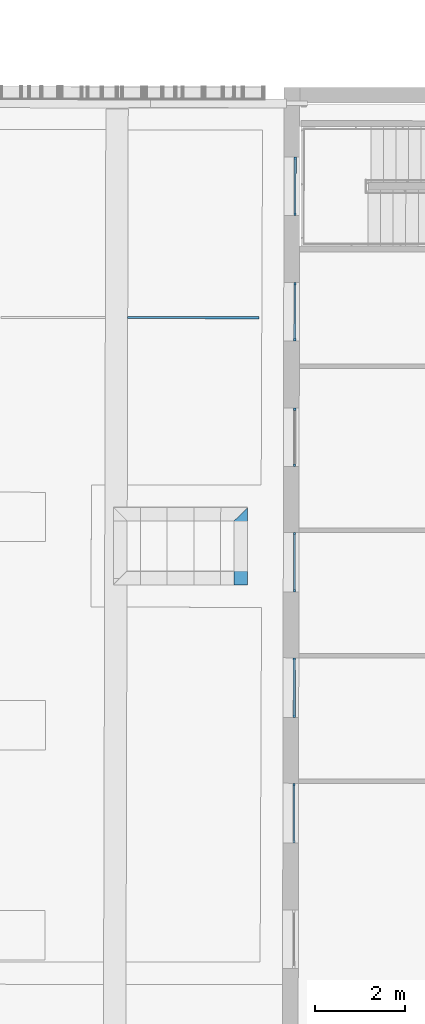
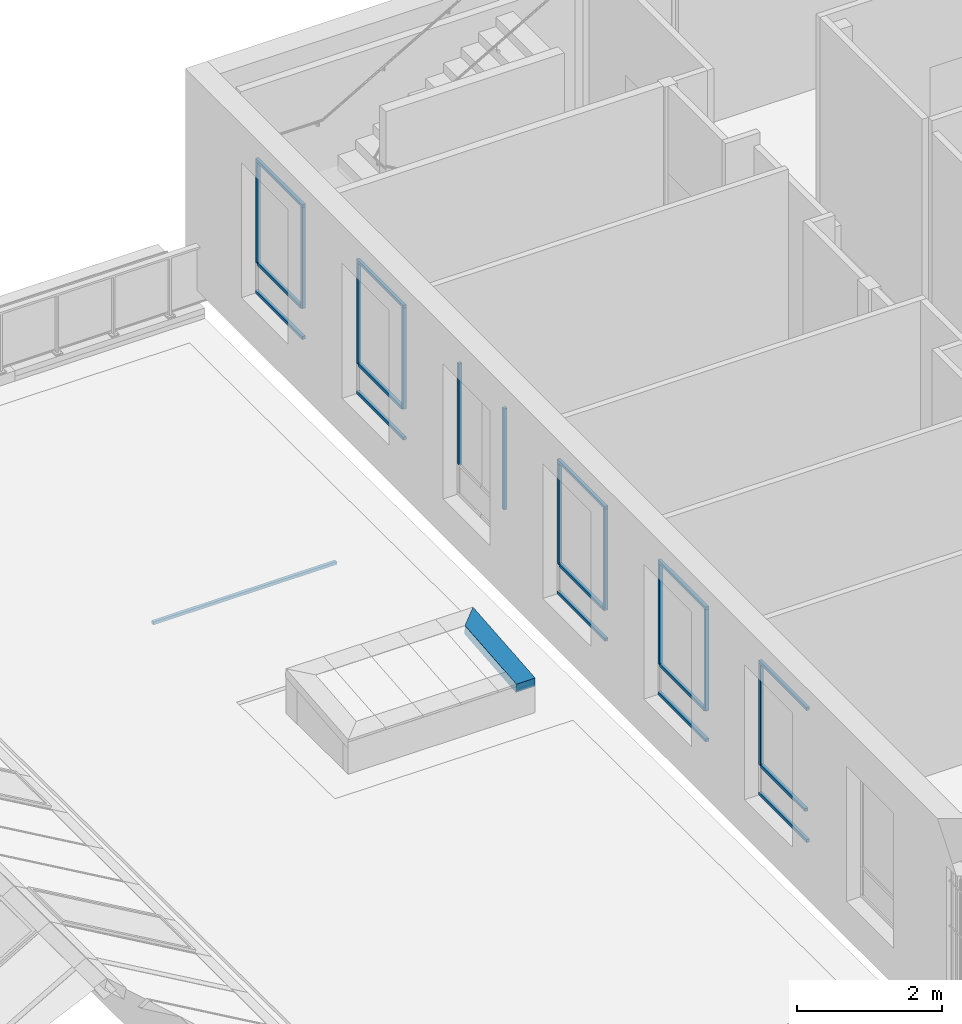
# One storey, part 16 of 101: 27 members, 1 beam, 7 elements without a shape of their own.
"""IFC2X3 building model written with IfcOpenShell, lengths in metres."""

from ifc_helpers import new_model, entity, si_unit, converted_unit, derived_unit, direction, frame, frame_2d, origin, origin_2d_with_axis, place, context, subcontext, project, spatial, polyline, rectangle, outline, extrude, clip, halfspace, source, transform, mapped, material, type_object, type_shapes, element, aggregate, save


model = new_model("IFC2X3")

# Units and contexts
model_context = context("Model", 3, precision=1e-05, world=origin(), true_north=direction((6.123233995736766e-17, 1.0)))
body_context = subcontext(model_context, "Body", "Model", "MODEL_VIEW")
ifc_project = project(units=[si_unit("LENGTHUNIT", "METRE"), si_unit("AREAUNIT", "SQUARE_METRE"), converted_unit("PLANEANGLEUNIT", "DEGREE", entity("IfcPlaneAngleMeasure", 0.017453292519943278), si_unit("PLANEANGLEUNIT", "RADIAN"), dimensions=[0, 0, 0, 0, 0, 0, 0]), derived_unit("THERMALTRANSMITTANCEUNIT", [(si_unit("MASSUNIT", "GRAM", prefix="KILO"), 1), (si_unit("THERMODYNAMICTEMPERATUREUNIT", "KELVIN"), -1), (si_unit("TIMEUNIT", "SECOND"), -3)])], contexts=[model_context])

# Site, building, storey
site_placement = place(None, frame((1253.6752467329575, 2072.143113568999, 91.49999999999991), z_axis=(0.0, 0.0, 1.0), x_axis=(0.7237211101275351, 0.6900925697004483, 0.0)))
site = spatial("IfcSite", under=ifc_project, at=site_placement, Name="Surface", CompositionType="ELEMENT")
building_placement = place(site_placement, origin())
building = spatial("IfcBuilding", under=site, at=building_placement, CompositionType="ELEMENT")
storey_placement = place(building_placement, origin())
storey = spatial("IfcBuildingStorey", under=building, at=storey_placement, Name="0- Rdc", CompositionType="ELEMENT", Elevation=-5.764692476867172e-13)

# Curtain wall, member
curtain_wall_type_1 = type_object("IfcCurtainWallType", Name="Mur-rideau:Menuiserie Ext 1F+1OB VERTIC", PredefinedType="NOTDEFINED")
curtain_wall_1_placement = place(storey_placement, origin())
curtain_wall_1 = element("IfcCurtainWall", 1, at=curtain_wall_1_placement, inside=storey, type_object=curtain_wall_type_1, Name="Mur-rideau:Menuiserie Ext 1F+1OB VERTIC", ObjectType="Mur-rideau:Menuiserie Ext 1F+1OB VERTIC")
ifc_material_1 = material(Name="OMD_Aluminium Men Ext")
member_type_1 = type_object("IfcMemberType", Name="Meneau rectangulaire:50x50", PredefinedType="MULLION", material=ifc_material_1)
shared_shape_1 = source(origin(), body_context, "Body", "SweptSolid", [
    extrude(rectangle(XDim=0.05, YDim=0.049999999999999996, at=origin_2d_with_axis()), frame((-0.025, 0.0, -1.2996959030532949), z_axis=(0.0, 0.0, 1.0), x_axis=(-1.0, 0.0, 0.0)), (0.0, 0.0, 1.0), 1.2996959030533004),
])
type_shapes(member_type_1, [shared_shape_1])
member_1_placement = place(curtain_wall_1_placement, frame((190.7317655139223, 2.160201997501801, 2.8999999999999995), z_axis=(0.6913353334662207, 0.7225340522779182, 0.0), x_axis=(0.0, 0.0, 1.0)))
member_1 = element("IfcMember", 2, at=member_1_placement, type_object=member_type_1, material=ifc_material_1, Name="Meneau rectangulaire:50x50", ObjectType="Meneau rectangulaire:50x50", context=body_context, shape_type="MappedRepresentation", body=[
    mapped(shared_shape_1, transform((0.0, 0.0, 0.0), scale=1.0)),
])

curtain_wall_2_placement = place(storey_placement, origin())
curtain_wall_2 = element("IfcCurtainWall", 3, at=curtain_wall_2_placement, inside=storey, type_object=curtain_wall_type_1, Name="Mur-rideau:Menuiserie Ext 1F+1OB VERTIC", ObjectType="Mur-rideau:Menuiserie Ext 1F+1OB VERTIC")
member_2_placement = place(curtain_wall_2_placement, frame((188.796236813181, 0.137326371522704, 2.8999999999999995), z_axis=(0.6913353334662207, 0.7225340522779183, 0.0), x_axis=(0.0, 0.0, 1.0)))
member_2 = element("IfcMember", 4, at=member_2_placement, type_object=member_type_1, material=ifc_material_1, Name="Meneau rectangulaire:50x50", ObjectType="Meneau rectangulaire:50x50", context=body_context, shape_type="MappedRepresentation", body=[
    mapped(shared_shape_1, transform((0.0, 0.0, 0.0), scale=1.0)),
])

# Member
member_type_2 = type_object("IfcMemberType", Name="Meneau rectangulaire:50x50", PredefinedType="MULLION", material=ifc_material_1)
shared_shape_2 = source(origin(), body_context, "Body", "SweptSolid", [
    extrude(rectangle(XDim=0.05, YDim=0.05, at=origin_2d_with_axis()), frame((-0.025, 0.0, -1.2996959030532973), z_axis=(0.0, 0.0, 1.0), x_axis=(-1.0, 0.0, 0.0)), (0.0, 0.0, 1.0), 1.2996959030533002),
])
type_shapes(member_type_2, [shared_shape_2])
member_3_placement = place(curtain_wall_1_placement, frame((189.83323981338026, 1.2211274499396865, 0.62), z_axis=(-0.6913353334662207, -0.7225340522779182, 0.0), x_axis=(0.0, 0.0, -1.0)))
member_3 = element("IfcMember", 5, at=member_3_placement, type_object=member_type_2, material=ifc_material_1, Name="Meneau rectangulaire:50x50", ObjectType="Meneau rectangulaire:50x50", context=body_context, shape_type="MappedRepresentation", body=[
    mapped(shared_shape_2, transform((0.0, 0.0, 0.0), scale=1.0)),
])

member_4_placement = place(curtain_wall_2_placement, frame((187.89771111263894, -0.8017481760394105, 0.62), z_axis=(-0.6913353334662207, -0.7225340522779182, 0.0), x_axis=(0.0, 0.0, -1.0)))
member_4 = element("IfcMember", 6, at=member_4_placement, type_object=member_type_2, material=ifc_material_1, Name="Meneau rectangulaire:50x50", ObjectType="Meneau rectangulaire:50x50", context=body_context, shape_type="MappedRepresentation", body=[
    mapped(shared_shape_2, transform((0.0, 0.0, 0.0), scale=1.0)),
])

member_type_3 = type_object("IfcMemberType", Name="Meneau rectangulaire:50x50", PredefinedType="MULLION", material=ifc_material_1)
shared_shape_3 = source(origin(), body_context, "Body", "SweptSolid", [
    extrude(rectangle(XDim=0.05, YDim=0.049999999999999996, at=origin_2d_with_axis()), frame((-0.025, 0.0, -1.7099999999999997), z_axis=(0.0, 0.0, 1.0), x_axis=(-1.0, 0.0, 0.0)), (0.0, 0.0, 1.0), 1.7099999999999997),
])
type_shapes(member_type_3, [shared_shape_3])
member_5_placement = place(curtain_wall_1_placement, frame((189.8332398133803, 1.2211274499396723, 2.8499999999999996), z_axis=(0.0, 0.0, 1.0), x_axis=(-0.6913353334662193, -0.7225340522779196, 0.0)))
member_5 = element("IfcMember", 7, at=member_5_placement, type_object=member_type_3, material=ifc_material_1, Name="Meneau rectangulaire:50x50", ObjectType="Meneau rectangulaire:50x50", context=body_context, shape_type="MappedRepresentation", body=[
    mapped(shared_shape_3, transform((0.0, 0.0, 0.0), scale=1.0)),
])

member_6_placement = place(curtain_wall_2_placement, frame((187.89771111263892, -0.8017481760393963, 2.8499999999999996), z_axis=(0.0, 0.0, 1.0), x_axis=(-0.6913353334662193, -0.7225340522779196, 0.0)))
member_6 = element("IfcMember", 8, at=member_6_placement, type_object=member_type_3, material=ifc_material_1, Name="Meneau rectangulaire:50x50", ObjectType="Meneau rectangulaire:50x50", context=body_context, shape_type="MappedRepresentation", body=[
    mapped(shared_shape_3, transform((0.0, 0.0, 0.0), scale=1.0)),
])

# Curtain wall, member
curtain_wall_3_placement = place(storey_placement, origin())
curtain_wall_3 = element("IfcCurtainWall", 9, at=curtain_wall_3_placement, inside=storey, type_object=curtain_wall_type_1, Name="Mur-rideau:Menuiserie Ext 1F+1OB VERTIC", ObjectType="Mur-rideau:Menuiserie Ext 1F+1OB VERTIC")
member_7_placement = place(curtain_wall_3_placement, frame((185.9619721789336, -2.8248435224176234, 2.8499999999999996), z_axis=(0.0, 0.0, 1.0), x_axis=(-0.6913353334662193, -0.7225340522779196, 0.0)))
member_7 = element("IfcMember", 10, at=member_7_placement, type_object=member_type_3, material=ifc_material_1, Name="Meneau rectangulaire:50x50", ObjectType="Meneau rectangulaire:50x50", context=body_context, shape_type="MappedRepresentation", body=[
    mapped(shared_shape_3, transform((0.0, 0.0, 0.0), scale=1.0)),
])

curtain_wall_4_placement = place(storey_placement, origin())
curtain_wall_4 = element("IfcCurtainWall", 11, at=curtain_wall_4_placement, inside=storey, type_object=curtain_wall_type_1, Name="Mur-rideau:Menuiserie Ext 1F+1OB VERTIC", ObjectType="Mur-rideau:Menuiserie Ext 1F+1OB VERTIC")
member_8_placement = place(curtain_wall_4_placement, frame((184.02623324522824, -4.847938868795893, 2.8499999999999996), z_axis=(0.0, 0.0, 1.0), x_axis=(-0.6913353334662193, -0.7225340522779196, 0.0)))
member_8 = element("IfcMember", 12, at=member_8_placement, type_object=member_type_3, material=ifc_material_1, Name="Meneau rectangulaire:50x50", ObjectType="Meneau rectangulaire:50x50", context=body_context, shape_type="MappedRepresentation", body=[
    mapped(shared_shape_3, transform((0.0, 0.0, 0.0), scale=1.0)),
])

curtain_wall_5_placement = place(storey_placement, origin())
curtain_wall_5 = element("IfcCurtainWall", 13, at=curtain_wall_5_placement, inside=storey, type_object=curtain_wall_type_1, Name="Mur-rideau:Menuiserie Ext 1F+1OB VERTIC", ObjectType="Mur-rideau:Menuiserie Ext 1F+1OB VERTIC")
member_9_placement = place(curtain_wall_5_placement, frame((182.0904943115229, -6.871034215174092, 2.8499999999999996), z_axis=(0.0, 0.0, 1.0), x_axis=(-0.6913353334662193, -0.7225340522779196, 0.0)))
member_9 = element("IfcMember", 14, at=member_9_placement, type_object=member_type_3, material=ifc_material_1, Name="Meneau rectangulaire:50x50", ObjectType="Meneau rectangulaire:50x50", context=body_context, shape_type="MappedRepresentation", body=[
    mapped(shared_shape_3, transform((0.0, 0.0, 0.0), scale=1.0)),
])

# Member
member_type_4 = type_object("IfcMemberType", Name="Meneau rectangulaire:50x50", PredefinedType="MULLION", material=ifc_material_1)
shared_shape_4 = source(origin(), body_context, "Body", "SweptSolid", [
    extrude(rectangle(XDim=0.05, YDim=0.049999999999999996, at=origin_2d_with_axis()), frame((-0.025, 0.0, -1.7099999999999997), z_axis=(0.0, 0.0, 1.0), x_axis=(-1.0, 0.0, 0.0)), (0.0, 0.0, 1.0), 1.7099999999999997),
])
type_shapes(member_type_4, [shared_shape_4])
member_10_placement = place(curtain_wall_1_placement, frame((190.7317655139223, 2.1602019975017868, 1.14), z_axis=(0.0, 0.0, -1.0), x_axis=(0.6913353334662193, 0.7225340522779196, 0.0)))
member_10 = element("IfcMember", 15, at=member_10_placement, type_object=member_type_4, material=ifc_material_1, Name="Meneau rectangulaire:50x50", ObjectType="Meneau rectangulaire:50x50", context=body_context, shape_type="MappedRepresentation", body=[
    mapped(shared_shape_4, transform((0.0, 0.0, 0.0), scale=1.0)),
])

member_11_placement = place(curtain_wall_2_placement, frame((188.79623681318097, 0.13732637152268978, 1.14), z_axis=(0.0, 0.0, -1.0), x_axis=(0.6913353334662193, 0.7225340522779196, 0.0)))
member_11 = element("IfcMember", 16, at=member_11_placement, type_object=member_type_4, material=ifc_material_1, Name="Meneau rectangulaire:50x50", ObjectType="Meneau rectangulaire:50x50", context=body_context, shape_type="MappedRepresentation", body=[
    mapped(shared_shape_4, transform((0.0, 0.0, 0.0), scale=1.0)),
])

member_12_placement = place(curtain_wall_3_placement, frame((186.86049787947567, -1.8857689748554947, 1.14), z_axis=(0.0, 0.0, -1.0), x_axis=(0.6913353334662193, 0.7225340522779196, 0.0)))
member_12 = element("IfcMember", 17, at=member_12_placement, type_object=member_type_4, material=ifc_material_1, Name="Meneau rectangulaire:50x50", ObjectType="Meneau rectangulaire:50x50", context=body_context, shape_type="MappedRepresentation", body=[
    mapped(shared_shape_4, transform((0.0, 0.0, 0.0), scale=1.0)),
])

aggregate(curtain_wall_3, [member_7, member_12])

member_13_placement = place(curtain_wall_4_placement, frame((184.9454626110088, -3.8872263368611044, 1.14), z_axis=(0.0, 0.0, -1.0), x_axis=(0.6913353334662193, 0.7225340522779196, 0.0)))
member_13 = element("IfcMember", 18, at=member_13_placement, type_object=member_type_4, material=ifc_material_1, Name="Meneau rectangulaire:50x50", ObjectType="Meneau rectangulaire:50x50", context=body_context, shape_type="MappedRepresentation", body=[
    mapped(shared_shape_4, transform((0.0, 0.0, 0.0), scale=1.0)),
])

member_14_placement = place(curtain_wall_5_placement, frame((183.00972344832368, -5.910321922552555, 1.14), z_axis=(0.0, 0.0, -1.0), x_axis=(0.6913353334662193, 0.7225340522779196, 0.0)))
member_14 = element("IfcMember", 19, at=member_14_placement, type_object=member_type_4, material=ifc_material_1, Name="Meneau rectangulaire:50x50", ObjectType="Meneau rectangulaire:50x50", context=body_context, shape_type="MappedRepresentation", body=[
    mapped(shared_shape_4, transform((0.0, 0.0, 0.0), scale=1.0)),
])

# Curtain wall, member
curtain_wall_6_placement = place(storey_placement, origin())
curtain_wall_6 = element("IfcCurtainWall", 20, at=curtain_wall_6_placement, inside=storey, type_object=curtain_wall_type_1, Name="Mur-rideau:Menuiserie Ext 1F+1OB VERTIC", ObjectType="Mur-rideau:Menuiserie Ext 1F+1OB VERTIC")
member_15_placement = place(curtain_wall_6_placement, frame((181.07398428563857, -7.933417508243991, 1.14), z_axis=(0.0, 0.0, -1.0), x_axis=(0.6913353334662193, 0.7225340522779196, 0.0)))
member_15 = element("IfcMember", 21, at=member_15_placement, type_object=member_type_4, material=ifc_material_1, Name="Meneau rectangulaire:50x50", ObjectType="Meneau rectangulaire:50x50", context=body_context, shape_type="MappedRepresentation", body=[
    mapped(shared_shape_4, transform((0.0, 0.0, 0.0), scale=1.0)),
])

# Member
member_type_5 = type_object("IfcMemberType", Name="Meneau rectangulaire:50x50", PredefinedType="MULLION", material=ifc_material_1)
shared_shape_5 = source(origin(), body_context, "Body", "SweptSolid", [
    extrude(rectangle(XDim=0.05, YDim=0.05, at=frame_2d((0.0, -1.734723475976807e-18), x_axis=(1.0, 0.0))), frame((0.0, 0.0, -1.1996959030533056), z_axis=(0.0, 0.0, 1.0), x_axis=(-1.0, 0.0, 0.0)), (0.0, 0.0, 1.0), 1.1996959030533),
])
type_shapes(member_type_5, [shared_shape_5])
member_16_placement = place(curtain_wall_1_placement, frame((190.697198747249, 2.124075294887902, 1.14), z_axis=(0.6913353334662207, 0.7225340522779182, 0.0), x_axis=(0.0, 0.0, 1.0)))
member_16 = element("IfcMember", 22, at=member_16_placement, type_object=member_type_5, material=ifc_material_1, Name="Meneau rectangulaire:50x50", ObjectType="Meneau rectangulaire:50x50", context=body_context, shape_type="MappedRepresentation", body=[
    mapped(shared_shape_5, transform((0.0, 0.0, 0.0), scale=1.0)),
])

aggregate(curtain_wall_1, [member_1, member_3, member_5, member_10, member_16])

member_17_placement = place(curtain_wall_2_placement, frame((188.76167004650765, 0.10119966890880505, 1.14), z_axis=(0.6913353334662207, 0.7225340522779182, 0.0), x_axis=(0.0, 0.0, 1.0)))
member_17 = element("IfcMember", 23, at=member_17_placement, type_object=member_type_5, material=ifc_material_1, Name="Meneau rectangulaire:50x50", ObjectType="Meneau rectangulaire:50x50", context=body_context, shape_type="MappedRepresentation", body=[
    mapped(shared_shape_5, transform((0.0, 0.0, 0.0), scale=1.0)),
])

aggregate(curtain_wall_2, [member_2, member_4, member_6, member_11, member_17])

member_type_6 = type_object("IfcMemberType", Name="Meneau rectangulaire:50x50", PredefinedType="MULLION", material=ifc_material_1)
shared_shape_6 = source(origin(), body_context, "Body", "SweptSolid", [
    extrude(rectangle(XDim=0.05, YDim=0.05, at=origin_2d_with_axis()), frame((-0.025, 0.0, -1.3296959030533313), z_axis=(0.0, 0.0, 1.0), x_axis=(-1.0, 0.0, 0.0)), (0.0, 0.0, 1.0), 1.3296959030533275),
])
type_shapes(member_type_6, [shared_shape_6])
member_18_placement = place(curtain_wall_4_placement, frame((184.9454626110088, -3.8872263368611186, 2.8999999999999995), z_axis=(0.6913353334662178, 0.722534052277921, 0.0), x_axis=(0.0, 0.0, 1.0)))
member_18 = element("IfcMember", 24, at=member_18_placement, type_object=member_type_6, material=ifc_material_1, Name="Meneau rectangulaire:50x50", ObjectType="Meneau rectangulaire:50x50", context=body_context, shape_type="MappedRepresentation", body=[
    mapped(shared_shape_6, transform((0.0, 0.0, 0.0), scale=1.0)),
])

member_19_placement = place(curtain_wall_5_placement, frame((183.0097234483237, -5.910321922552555, 2.8999999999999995), z_axis=(0.6913353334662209, 0.7225340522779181, 0.0), x_axis=(0.0, 0.0, 1.0)))
member_19 = element("IfcMember", 25, at=member_19_placement, type_object=member_type_6, material=ifc_material_1, Name="Meneau rectangulaire:50x50", ObjectType="Meneau rectangulaire:50x50", context=body_context, shape_type="MappedRepresentation", body=[
    mapped(shared_shape_6, transform((0.0, 0.0, 0.0), scale=1.0)),
])

member_20_placement = place(curtain_wall_6_placement, frame((181.07398428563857, -7.933417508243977, 2.8999999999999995), z_axis=(0.6913353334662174, 0.7225340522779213, 0.0), x_axis=(0.0, 0.0, 1.0)))
member_20 = element("IfcMember", 26, at=member_20_placement, type_object=member_type_6, material=ifc_material_1, Name="Meneau rectangulaire:50x50", ObjectType="Meneau rectangulaire:50x50", context=body_context, shape_type="MappedRepresentation", body=[
    mapped(shared_shape_6, transform((0.0, 0.0, 0.0), scale=1.0)),
])

member_type_7 = type_object("IfcMemberType", Name="Meneau rectangulaire:50x50", PredefinedType="MULLION", material=ifc_material_1)
shared_shape_7 = source(origin(), body_context, "Body", "SweptSolid", [
    extrude(rectangle(XDim=0.05, YDim=0.049999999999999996, at=origin_2d_with_axis()), frame((-0.025, 0.0, -1.329695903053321), z_axis=(0.0, 0.0, 1.0), x_axis=(-1.0, 0.0, 0.0)), (0.0, 0.0, 1.0), 1.3296959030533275),
])
type_shapes(member_type_7, [shared_shape_7])
member_21_placement = place(curtain_wall_4_placement, frame((184.0262332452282, -4.847938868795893, 0.62), z_axis=(-0.6913353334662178, -0.722534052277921, 0.0), x_axis=(0.0, 0.0, -1.0)))
member_21 = element("IfcMember", 27, at=member_21_placement, type_object=member_type_7, material=ifc_material_1, Name="Meneau rectangulaire:50x50", ObjectType="Meneau rectangulaire:50x50", context=body_context, shape_type="MappedRepresentation", body=[
    mapped(shared_shape_7, transform((0.0, 0.0, 0.0), scale=1.0)),
])

member_22_placement = place(curtain_wall_5_placement, frame((182.09049431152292, -6.871034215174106, 0.62), z_axis=(-0.6913353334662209, -0.7225340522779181, 0.0), x_axis=(0.0, 0.0, -1.0)))
member_22 = element("IfcMember", 28, at=member_22_placement, type_object=member_type_7, material=ifc_material_1, Name="Meneau rectangulaire:50x50", ObjectType="Meneau rectangulaire:50x50", context=body_context, shape_type="MappedRepresentation", body=[
    mapped(shared_shape_7, transform((0.0, 0.0, 0.0), scale=1.0)),
])

member_23_placement = place(curtain_wall_6_placement, frame((180.15475537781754, -8.894129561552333, 0.62), z_axis=(-0.6913353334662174, -0.7225340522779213, 0.0), x_axis=(0.0, 0.0, -1.0)))
member_23 = element("IfcMember", 29, at=member_23_placement, type_object=member_type_7, material=ifc_material_1, Name="Meneau rectangulaire:50x50", ObjectType="Meneau rectangulaire:50x50", context=body_context, shape_type="MappedRepresentation", body=[
    mapped(shared_shape_7, transform((0.0, 0.0, 0.0), scale=1.0)),
])

member_type_8 = type_object("IfcMemberType", Name="Meneau rectangulaire:50x50", PredefinedType="MULLION", material=ifc_material_1)
shared_shape_8 = source(origin(), body_context, "Body", "SweptSolid", [
    extrude(rectangle(XDim=0.05, YDim=0.05, at=origin_2d_with_axis()), frame((0.0, 0.0, -1.2296959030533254), z_axis=(0.0, 0.0, 1.0), x_axis=(-1.0, 0.0, 0.0)), (0.0, 0.0, 1.0), 1.2296959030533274),
])
type_shapes(member_type_8, [shared_shape_8])
member_24_placement = place(curtain_wall_4_placement, frame((184.91089584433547, -3.9233530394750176, 1.14), z_axis=(0.6913353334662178, 0.722534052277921, 0.0), x_axis=(0.0, 0.0, 1.0)))
member_24 = element("IfcMember", 30, at=member_24_placement, type_object=member_type_8, material=ifc_material_1, Name="Meneau rectangulaire:50x50", ObjectType="Meneau rectangulaire:50x50", context=body_context, shape_type="MappedRepresentation", body=[
    mapped(shared_shape_8, transform((0.0, 0.0, 0.0), scale=1.0)),
])

aggregate(curtain_wall_4, [member_18, member_21, member_8, member_13, member_24])

member_25_placement = place(curtain_wall_5_placement, frame((182.9751566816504, -5.946448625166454, 1.14), z_axis=(0.6913353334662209, 0.7225340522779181, 0.0), x_axis=(0.0, 0.0, 1.0)))
member_25 = element("IfcMember", 31, at=member_25_placement, type_object=member_type_8, material=ifc_material_1, Name="Meneau rectangulaire:50x50", ObjectType="Meneau rectangulaire:50x50", context=body_context, shape_type="MappedRepresentation", body=[
    mapped(shared_shape_8, transform((0.0, 0.0, 0.0), scale=1.0)),
])

aggregate(curtain_wall_5, [member_19, member_22, member_9, member_14, member_25])

member_26_placement = place(curtain_wall_6_placement, frame((181.03941751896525, -7.96954421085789, 1.14), z_axis=(0.6913353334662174, 0.7225340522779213, 0.0), x_axis=(0.0, 0.0, 1.0)))
member_26 = element("IfcMember", 32, at=member_26_placement, type_object=member_type_8, material=ifc_material_1, Name="Meneau rectangulaire:50x50", ObjectType="Meneau rectangulaire:50x50", context=body_context, shape_type="MappedRepresentation", body=[
    mapped(shared_shape_8, transform((0.0, 0.0, 0.0), scale=1.0)),
])

aggregate(curtain_wall_6, [member_20, member_23, member_15, member_26])

# Beam
ifc_material_2 = material(Name="RAL 7016 - Anthracite Grey")
beam_type = type_object("IfcBeamType", Name="ART-Béton - Poutre rectangulaire:Po 5x5 ht acier", PredefinedType="BEAM")
beam_placement = place(storey_placement, frame((185.55777668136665, 2.149164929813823, -1.4532000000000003), z_axis=(0.0, 0.0, 1.0), x_axis=(0.7228465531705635, -0.6910085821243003, 0.0)))
element("IfcBeam", 33, at=beam_placement, inside=storey, type_object=beam_type, material=ifc_material_2, Name="ART-Béton - Poutre rectangulaire:Po 5x5 ht acier", ObjectType="ART-Béton - Poutre rectangulaire:Po 5x5 ht acier", context=body_context, shape_type="SweptSolid", body=[
    clip(extrude(rectangle(XDim=0.05, YDim=0.05000000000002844, at=frame_2d((0.0, 9.71445146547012e-17), x_axis=(1.0, 0.0))), frame((0.001168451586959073, 0.0, -0.025000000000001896), z_axis=(1.0, 0.0, 0.0), x_axis=(0.0, 0.0, -1.0)), (0.0, 0.0, 1.0), 2.9288315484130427), halfspace(frame((0.00741954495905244, 4.645924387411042, -0.030012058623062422), z_axis=(-0.9999991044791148, 0.0013382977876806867, 0.0), x_axis=(-1.1921253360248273e-05, -0.008907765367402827, -0.9999603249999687)), False)),
])

# Roof, member
curtain_wall_type_2 = type_object("IfcCurtainWallType", Name="Vitres inclinées:Toit en verre 1 m x 2 m", PredefinedType="NOTDEFINED")
roof_placement = place(storey_placement, origin())
roof = element("IfcRoof", 34, at=roof_placement, inside=storey, type_object=curtain_wall_type_2, Name="Vitres inclinées:Toit en verre 1 m x 2 m", ObjectType="Vitres inclinées:Toit en verre 1 m x 2 m", ShapeType="NOTDEFINED")
ifc_material_3 = material(Name="OMD_Aluminium blanc")
member_type_9 = type_object("IfcMemberType", Name="Meneau rectangulaire:22x300", PredefinedType="MULLION", material=ifc_material_3)
shared_shape_9 = source(origin(), body_context, "Body", "SweptSolid", [
    extrude(outline(polyline([(-0.9417555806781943, -0.14999999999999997), (0.791808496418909, -0.14999999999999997), (0.791808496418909, 0.15), (-0.6418614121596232, 0.14999999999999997), (-0.9417555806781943, -0.14999999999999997)])), frame((-0.1499999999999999, -0.010000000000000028, -0.9417555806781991), z_axis=(0.0, 1.0, 0.0), x_axis=(0.0, 0.0, -1.0)), (0.0, 0.0, 1.0), 0.15000000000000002),
])
type_shapes(member_type_9, [shared_shape_9])
member_27_placement = place(roof_placement, frame((184.56803519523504, -2.76393610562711, 0.41088983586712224), z_axis=(0.6883544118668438, 0.7201194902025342, 0.08715574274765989), x_axis=(0.7228702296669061, -0.6909838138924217, 0.0)))
member_27 = element("IfcMember", 35, at=member_27_placement, type_object=member_type_9, material=ifc_material_3, Name="Meneau rectangulaire:22x300", ObjectType="Meneau rectangulaire:22x300", context=body_context, shape_type="MappedRepresentation", body=[
    mapped(shared_shape_9, transform((0.0, 0.0, 0.0), scale=1.0)),
])
aggregate(roof, [member_27])

save(model, "model.ifc")
